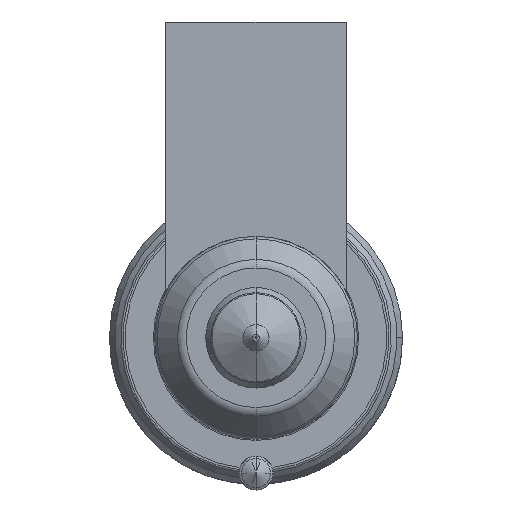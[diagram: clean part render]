
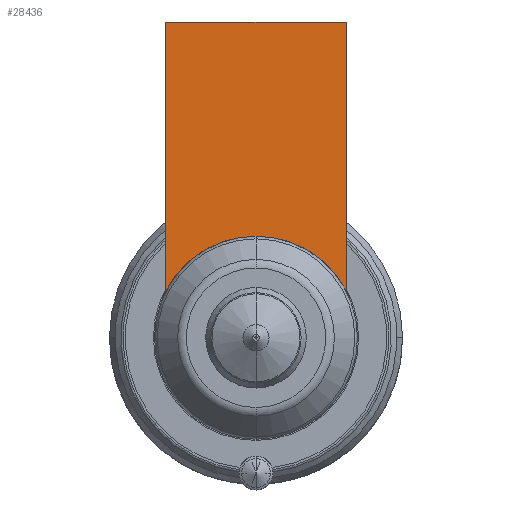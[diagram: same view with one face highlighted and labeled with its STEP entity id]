
A CAD part, front view. The second image highlights one B-rep face of the part: STEP entity #28436.
In plain terms, the highlighted planar face has unit normal (0, -1, 0).
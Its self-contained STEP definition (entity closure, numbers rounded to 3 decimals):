
#27617=CARTESIAN_POINT('',(0.,-54.,0.));
#27618=DIRECTION('',(0.,-1.,0.));
#27619=DIRECTION('',(0.,0.,1.));
#27620=AXIS2_PLACEMENT_3D('',#27617,#27618,#27619);
#27626=DIRECTION('',(1.,0.,0.));
#27627=VECTOR('',#27626,16.);
#27628=CARTESIAN_POINT('',(-8.,-54.,28.));
#27629=LINE('',#27628,#27627);
#27633=CARTESIAN_POINT('',(0.,-54.,0.));
#27634=DIRECTION('',(0.,-1.,0.));
#27635=DIRECTION('',(0.889,0.,0.458));
#27636=AXIS2_PLACEMENT_3D('',#27633,#27634,#27635);
#27788=DIRECTION('',(0.,0.,-1.));
#27789=VECTOR('',#27788,23.877);
#27790=CARTESIAN_POINT('',(8.,-54.,28.));
#27791=LINE('',#27790,#27789);
#27851=DIRECTION('',(0.,0.,-1.));
#27852=VECTOR('',#27851,23.877);
#27853=CARTESIAN_POINT('',(-8.,-54.,28.));
#27854=LINE('',#27853,#27852);
#28394=CARTESIAN_POINT('',(-8.,-54.,28.));
#28395=VERTEX_POINT('',#28394);
#28400=CARTESIAN_POINT('',(8.,-54.,28.));
#28401=VERTEX_POINT('',#28400);
#28406=CARTESIAN_POINT('',(0.,-54.,9.));
#28407=CARTESIAN_POINT('',(-8.,-54.,4.123));
#28408=VERTEX_POINT('',#28406);
#28409=VERTEX_POINT('',#28407);
#28410=CARTESIAN_POINT('',(8.,-54.,4.123));
#28411=VERTEX_POINT('',#28410);
#28419=CARTESIAN_POINT('',(0.,-54.,9.));
#28420=DIRECTION('',(0.,1.,0.));
#28421=DIRECTION('',(0.,0.,-1.));
#28422=AXIS2_PLACEMENT_3D('',#28419,#28420,#28421);
#28423=PLANE('',#28422);
#28425=ORIENTED_EDGE('',*,*,#28424,.T.);
#28427=ORIENTED_EDGE('',*,*,#28426,.F.);
#28429=ORIENTED_EDGE('',*,*,#28428,.T.);
#28431=ORIENTED_EDGE('',*,*,#28430,.T.);
#28433=ORIENTED_EDGE('',*,*,#28432,.T.);
#28434=EDGE_LOOP('',(#28425,#28427,#28429,#28431,#28433));
#28435=FACE_OUTER_BOUND('',#28434,.F.);
#28436=ADVANCED_FACE('',(#28435),#28423,.F.);
#27621=CIRCLE('',#27620,9.);
#27637=CIRCLE('',#27636,9.);
#28424=EDGE_CURVE('',#28408,#28409,#27621,.T.);
#28426=EDGE_CURVE('',#28395,#28409,#27854,.T.);
#28428=EDGE_CURVE('',#28395,#28401,#27629,.T.);
#28430=EDGE_CURVE('',#28401,#28411,#27791,.T.);
#28432=EDGE_CURVE('',#28411,#28408,#27637,.T.);
